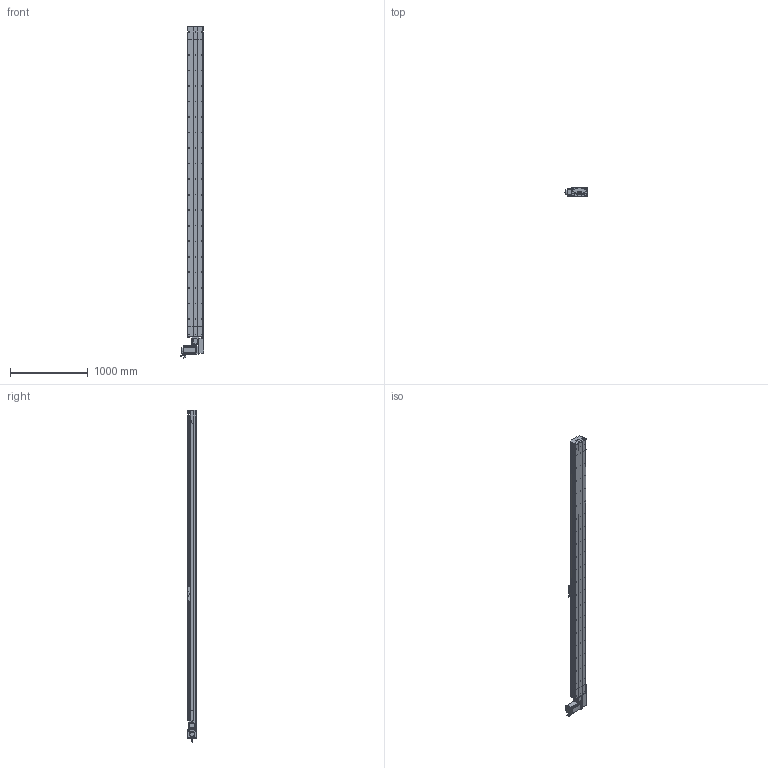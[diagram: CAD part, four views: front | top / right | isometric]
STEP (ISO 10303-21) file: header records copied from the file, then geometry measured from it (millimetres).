
FILE_DESCRIPTION (( 'STEP AP214' ), '1' );
FILE_NAME ('D20 TBH LH S3700.STEP', '2010-07-01T09:08:03', ( 'Conseil Régional Haute-Normandie' ), ( 'Conseil Régional Haute-Normandie' ), 'SwSTEP 2.0', 'SolidWorks 2010', '' );
FILE_SCHEMA (( 'AUTOMOTIVE_DESIGN' ));
Length unit declared in the file: millimetre
Products named in the file (40): couvercle tail D20_Default; Couroie tail D20_Default; corpl tail D20 +100_Default; tail D20+100_Default; vis M8 L12_Default; plaque de  bout tail D20_Default; poulie tail D20_Default; clavette; tete d''axe poulie D20B; Conecteur_Default; Moteur motionking 110BLDC170A-640x; vis M5 L25_Default; vis M5 L12_Default; Conecteur2_Default; codeur 110BLDC170A-630x; corps 110BLDC170A-630x; rail tail D20; vis M5 L8 90°_Default; avant 110BLDC170A-630x; vis M5 L70_Default; Plaque racord D20LH_Default; Renvoi LH D20_Default; vis M5 L5_Default; couroie_Default; cache D20_Default; cache arbre D20_Default; plaque de  bout head D20B LH_Default; poulie head D20_Default; couvercle head D20_Default; rail head D20; corpl head D20_Default; head LH_Default; guide D20B; Chariot D20B; chariot D20B_Default; rail + couroie  D20 S3700; couvercle D20 S3700_Default; corp D20 S3700_Default; Course B L3700_Default; D20 TBH LH S3700
Assembly tree (71 placements, depth 4):
  D20 TBH LH S3700
    Course B L3700_Default
      rail + couroie  D20 S3700
      couvercle D20 S3700_Default
      corp D20 S3700_Default
    tail D20+100_Default
      tete d''axe poulie D20B
      vis M5 L8 90°_Default  x2
      vis M5 L25_Default  x2
      Couroie tail D20_Default
      couvercle tail D20_Default
      plaque de  bout tail D20_Default
      corpl tail D20 +100_Default
      vis M5 L12_Default  x4
      rail tail D20
      poulie tail D20_Default
    chariot D20B_Default
      vis M5 L12_Default  x4
      Chariot D20B
      guide D20B  x2
    head LH_Default
      plaque de  bout head D20B LH_Default
      vis M5 L5_Default  x4
      vis M5 L12_Default  x10
      corpl head D20_Default
      couvercle head D20_Default
      cache D20_Default  x2
      Moteur motionking 110BLDC170A-640x
        Conecteur2_Default
        codeur 110BLDC170A-630x
        corps 110BLDC170A-630x
        avant 110BLDC170A-630x
        clavette
        Conecteur_Default
      cache arbre D20_Default
      rail head D20
      poulie head D20_Default
      vis M5 L70_Default  x4
      Plaque racord D20LH_Default
      couroie_Default
      vis M8 L12_Default  x4
      vis M5 L25_Default  x2
      Renvoi LH D20_Default
Bounding box: 304.2 x 115.7 x 4280 mm (x, y, z)
Volume: 31887807.5 mm3; surface area: 7941724.3 mm2
Topology: 95 solids, 95 shells, 2932 faces, 7614 edges, 4927 vertices
Faces by surface type: plane 1659, cylinder 949, bspline 136, cone 99, torus 89
Entity records: 96481 total; most frequent: CARTESIAN_POINT 31699, ORIENTED_EDGE 11884, DIRECTION 11105, EDGE_CURVE 5942, VERTEX_POINT 3913, VECTOR 3707, LINE 3707, AXIS2_PLACEMENT_3D 3699
